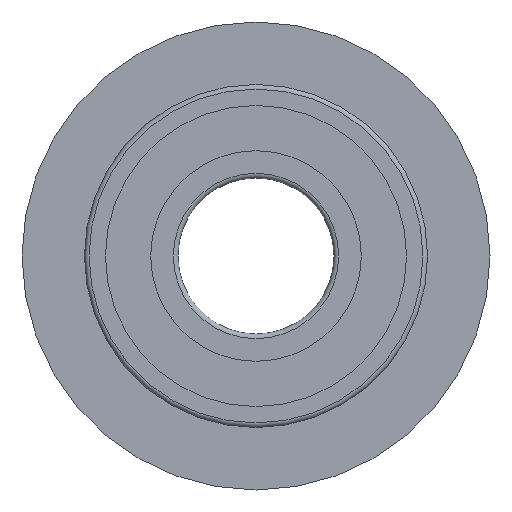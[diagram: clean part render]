
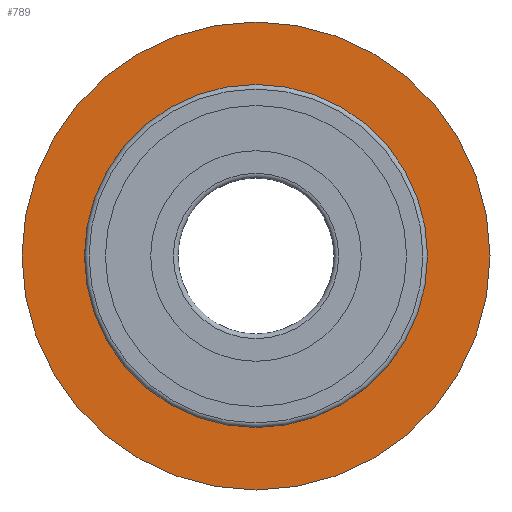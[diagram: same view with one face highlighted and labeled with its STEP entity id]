
A CAD part, left-side view. The second image highlights one B-rep face of the part: STEP entity #789.
In plain terms, the highlighted planar face has unit normal (-1, 0, 0).
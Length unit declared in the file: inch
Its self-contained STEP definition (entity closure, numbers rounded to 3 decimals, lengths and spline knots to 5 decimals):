
#762=CARTESIAN_POINT('',(112.91139,119.97152,0.));
#763=VERTEX_POINT('',#762);
#764=CARTESIAN_POINT('',(112.91139,112.47152,0.));
#765=DIRECTION('',(1.,0.,0.));
#766=DIRECTION('',(0.,1.,0.));
#767=AXIS2_PLACEMENT_3D('',#764,#765,#766);
#768=CIRCLE('',#767,7.5);
#769=EDGE_CURVE('',#763,#763,#768,.T.);
#770=ORIENTED_EDGE('',*,*,#769,.F.);
#771=EDGE_LOOP('',(#770));
#772=FACE_OUTER_BOUND('',#771,.T.);
#773=CARTESIAN_POINT('',(112.91139,117.97152,0.));
#774=VERTEX_POINT('',#773);
#775=CARTESIAN_POINT('',(112.91139,112.47152,0.));
#776=DIRECTION('',(1.,0.,0.));
#777=DIRECTION('',(0.,1.,0.));
#778=AXIS2_PLACEMENT_3D('',#775,#776,#777);
#779=CIRCLE('',#778,5.5);
#780=EDGE_CURVE('',#774,#774,#779,.T.);
#781=ORIENTED_EDGE('',*,*,#780,.T.);
#782=EDGE_LOOP('',(#781));
#783=FACE_BOUND('',#782,.T.);
#784=CARTESIAN_POINT('',(112.91139,118.97152,0.));
#785=DIRECTION('',(-1.,0.,0.));
#786=DIRECTION('',(0.,-1.,0.));
#787=AXIS2_PLACEMENT_3D('',#784,#785,#786);
#788=PLANE('',#787);
#789=ADVANCED_FACE('',(#772,#783),#788,.T.);
